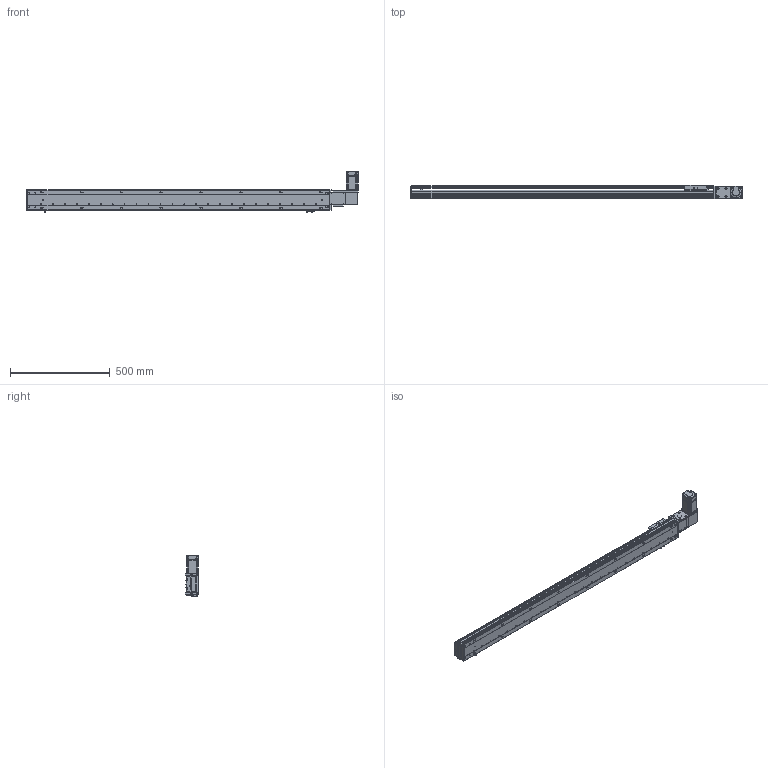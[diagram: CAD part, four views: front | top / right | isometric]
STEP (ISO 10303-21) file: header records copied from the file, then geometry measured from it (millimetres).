
FILE_DESCRIPTION (( 'STEP AP203' ), '1' );
FILE_NAME ('RY100-T-300-RK.SLDASM_1300.step', '2024-04-25T08:23:00', ( '盈信电脑' ), ( '东莞市道滘镇水果街19号' ), 'SwSTEP 2.0', 'SolidWorks 2016', '' );
FILE_SCHEMA (( 'CONFIG_CONTROL_DESIGN' ));
Length unit declared in the file: millimetre
Products named in the file (15): RY100-T-300-RK.SLDASM_1300; 侂狟200W萇儂; RY80-T肮祭謫俋欶; 1; RY100-T粣創揤踡裔; 滅袉蝶18-10; 覜茼ん672; RY100-T-300-RK倰第菁釱_1300; RY100俋离覜茼え; RY100-T-300-RK倰第奻裔_1300; RY100綴裔啣; RY100-T肮祭謫翋盓傅釱; RY100-T翋肮祭謫裔啣2; RY100-T肮祭謫臏賑輸; RY100-T左右折电机安装板
Assembly tree (18 placements, depth 3):
  RY100-T-300-RK.SLDASM_1300
    RY100-T-300-RK倰第菁釱_1300
    RY100-T-300-RK倰第奻裔_1300
    RY100-T肮祭謫臏賑輸
    RY100綴裔啣
    覜茼ん672  x3
    RY100俋离覜茼え
    RY100-T肮祭謫翋盓傅釱
    RY100-T左右折电机安装板
    侂狟200W萇儂
      1
    RY100-T粣創揤踡裔
    滅袉蝶18-10  x2
    RY100-T翋肮祭謫裔啣2  x2
    RY80-T肮祭謫俋欶
Bounding box: 1664 x 66 x 209.7 mm (x, y, z)
Volume: 3105216.4 mm3; surface area: 1291521.8 mm2
Topology: 17 solids, 17 shells, 2215 faces, 6176 edges, 4016 vertices
Faces by surface type: plane 1193, cylinder 811, cone 133, bspline 78
Entity records: 71068 total; most frequent: CARTESIAN_POINT 17211, ORIENTED_EDGE 11088, DIRECTION 10552, EDGE_CURVE 5544, VERTEX_POINT 3652, LINE 3564, VECTOR 3564, AXIS2_PLACEMENT_3D 3494
